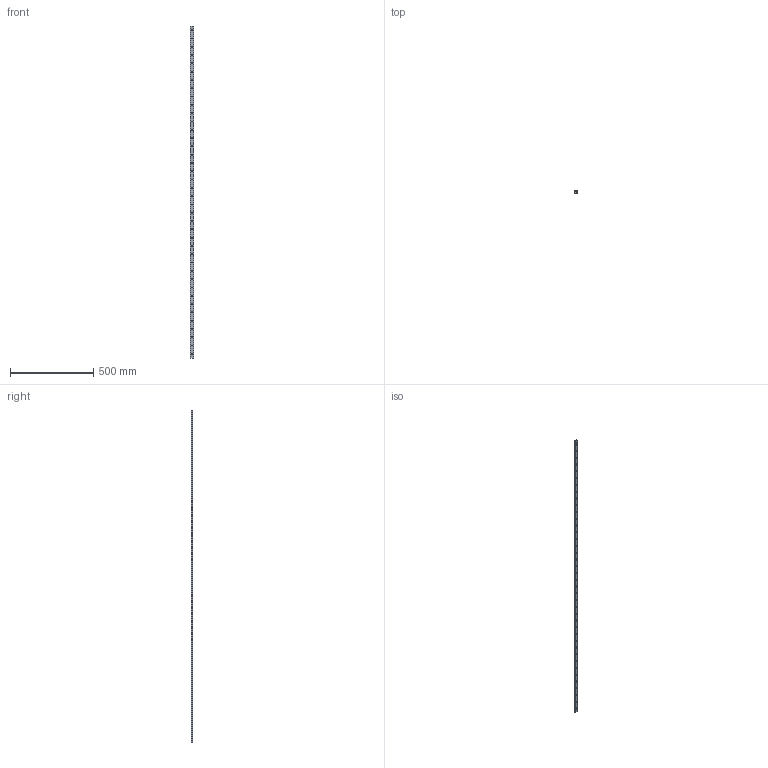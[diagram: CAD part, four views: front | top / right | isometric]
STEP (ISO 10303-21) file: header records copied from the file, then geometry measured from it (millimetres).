
FILE_DESCRIPTION (( 'STEP AP203' ), '1' );
FILE_NAME ('mlg-20c_mlg20-2000_0.step', '2023-07-21T01:56:05', ( '' ), ( '' ), 'SwSTEP 2.0', 'SolidWorks 2022', '' );
FILE_SCHEMA (( 'CONFIG_CONTROL_DESIGN' ));
Length unit declared in the file: millimetre
Products named in the file (3): mlg-20c_0; mlg20-2000_0_L=400; mlg-20c_mlg20-2000_0
Assembly tree (2 placements, depth 2):
  mlg-20c_mlg20-2000_0
    mlg20-2000_0_L=400
    mlg-20c_0
Bounding box: 20.15 x 10.5 x 2000 mm (x, y, z)
Volume: 135932.1 mm3; surface area: 147299.2 mm2
Topology: 2 solids, 2 shells, 601 faces, 1505 edges, 998 vertices
Faces by surface type: plane 292, cylinder 285, torus 24
Entity records: 18666 total; most frequent: DIRECTION 3343, CARTESIAN_POINT 3109, ORIENTED_EDGE 3010, EDGE_CURVE 1505, AXIS2_PLACEMENT_3D 1232, VERTEX_POINT 998, VECTOR 879, LINE 879
